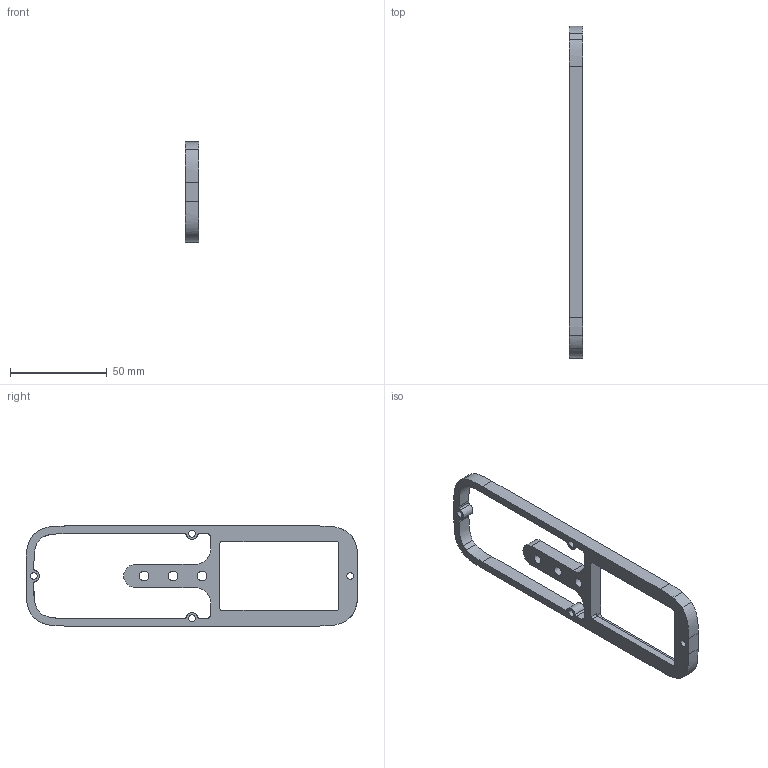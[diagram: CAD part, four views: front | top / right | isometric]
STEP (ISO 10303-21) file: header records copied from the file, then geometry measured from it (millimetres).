
FILE_DESCRIPTION(/* description */ (''),/* implementation_level */ '2;1');
FILE_NAME(/* name */ 'FRONT BRACKET.step',/* time_stamp */ '2024-02-28T16:19:07Z',/* author */ (''),/* organization */ (''),/* preprocessor_version */ 'ST-DEVELOPER v20',/* originating_system */ 'Autodesk Translation Framework v12.20.1.177',/* authorisation */ '');
FILE_SCHEMA (('AUTOMOTIVE_DESIGN { 1 0 10303 214 3 1 1 }'));
Length unit declared in the file: millimetre
Products named in the file (1): FRONT BRACKET
Bounding box: 7 x 171.8 x 51.8 mm (x, y, z)
Volume: 20518.5 mm3; surface area: 13476.2 mm2
Topology: 1 solids, 1 shells, 71 faces, 207 edges, 138 vertices
Faces by surface type: cylinder 29, plane 24, bspline 18
Full cylindrical faces by diameter (mm): 3.5 x4, 5 x3
Entity records: 3203 total; most frequent: CARTESIAN_POINT 1311, ORIENTED_EDGE 414, DIRECTION 337, EDGE_CURVE 207, VERTEX_POINT 138, LINE 113, VECTOR 113, AXIS2_PLACEMENT_3D 112
